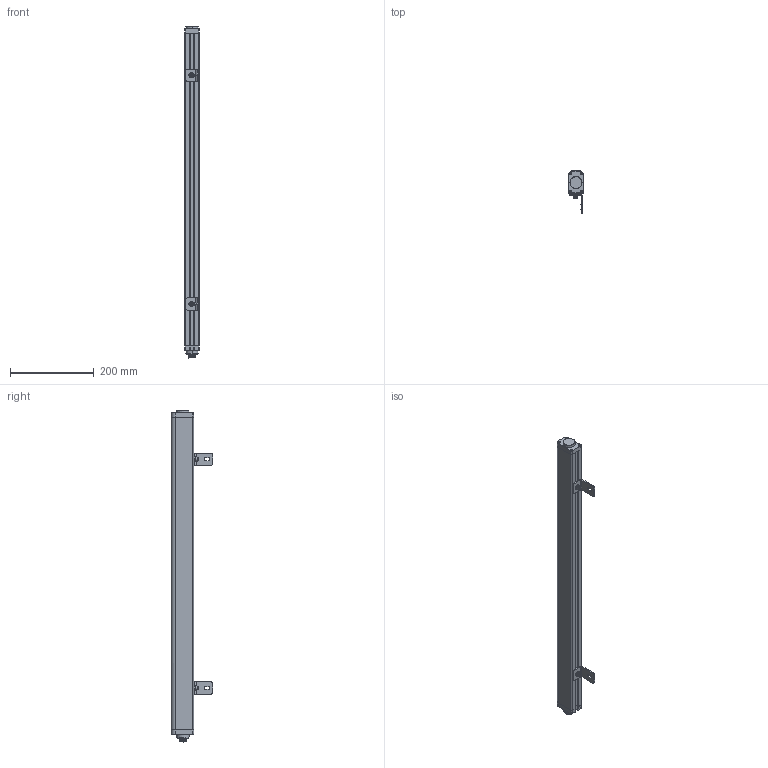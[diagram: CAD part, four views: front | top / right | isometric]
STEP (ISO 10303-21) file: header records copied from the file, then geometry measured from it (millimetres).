
FILE_DESCRIPTION((''),'2;1');
FILE_NAME('ESE8420_ASM','2021-07-12T15:03:48',('18720616900'),(''),'CREO PARAMETRIC BY PTC INC, 2019010','CREO PARAMETRIC BY PTC INC, 2019010','');
FILE_SCHEMA(('CONFIG_CONTROL_DESIGN'));
Length unit declared in the file: millimetre
Products named in the file (15): ESE--00; 000; ESE--000; HKCT2-1-SOLID1; HKCT11-1-SOLID1; 6_10001_ASM; ST-3-120001; L10001; M6-1-00; M6-1--00; M6-8--0001; 00; L1--0001_ASM; ESE8420_ASM
Assembly tree (22 placements, depth 3):
  ESE8420_ASM
    ESE--00
    000
    ESE--000
    ESE--000
    6_10001_ASM
      HKCT2-1-SOLID1
      HKCT11-1-SOLID1
    ST-3-120001  x8
    L1--0001_ASM  x2
      L10001
      M6-1-00
      M6-1--00
      M6-8--0001
      00
Bounding box: 35.3 x 99.3 x 790.59 mm (x, y, z)
Volume: 1330280.1 mm3; surface area: 215335.5 mm2
Topology: 24 solids, 24 shells, 1203 faces, 3161 edges, 2022 vertices
Faces by surface type: plane 340, cylinder 306, cone 246, bspline 233, torus 64, sphere 14
Entity records: 41666 total; most frequent: CARTESIAN_POINT 27268, ORIENTED_EDGE 3088, DIRECTION 2720, EDGE_CURVE 1544, AXIS2_PLACEMENT_3D 1052, VERTEX_POINT 1019, EDGE_LOOP 661, VECTOR 616
